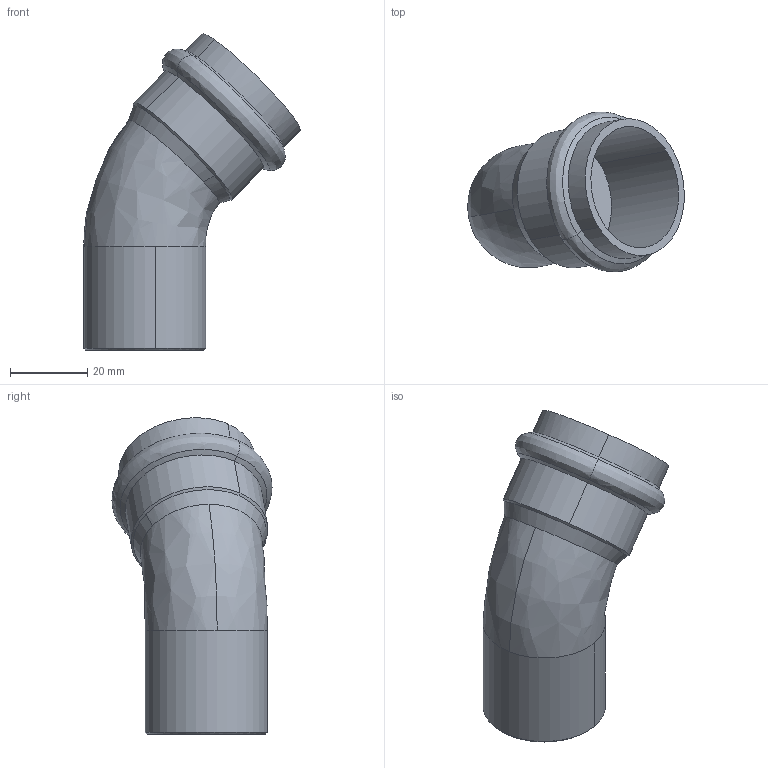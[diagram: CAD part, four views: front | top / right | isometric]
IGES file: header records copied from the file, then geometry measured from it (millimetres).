
Start section: 3D InterOp IGES (Version 25 0 1), Spatial Corp. Copyright (c) 1999-2007.
Global section: file name: pim0004553.igs; native system: Spatial Corp.; preprocessor: 3D InterOp ACIS/IGES; author: Cad-Pim; organization: TransMagic, Inc.; date: 20150430.173229; units: millimetre
Bounding box: 56.18 x 41.5 x 82.08 mm (x, y, z)
Volume: 50726.6 mm3; surface area: 13014.8 mm2
Topology: 1 solids, 1 shells, 25 faces, 68 edges, 46 vertices
Faces by surface type: cone 10, cylinder 8, bspline 7
